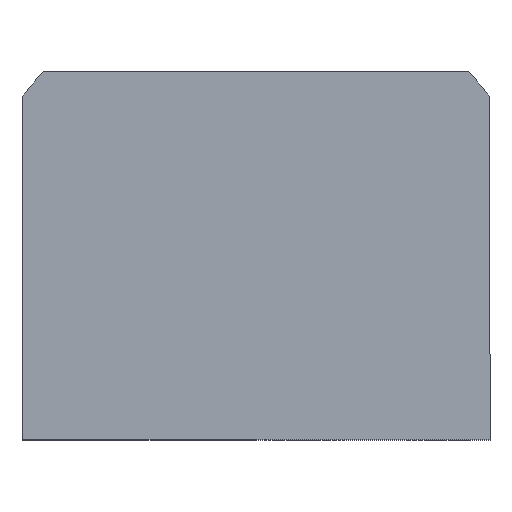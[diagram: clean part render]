
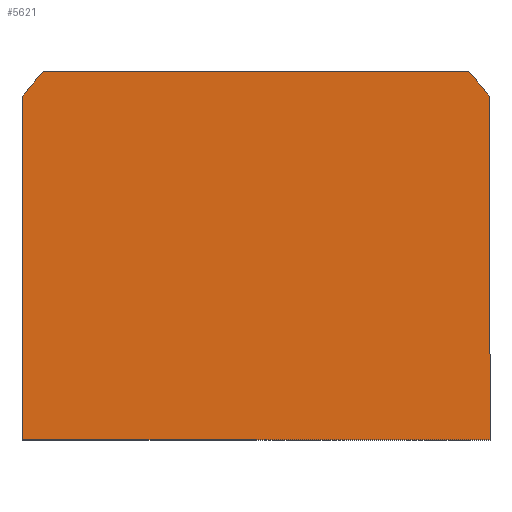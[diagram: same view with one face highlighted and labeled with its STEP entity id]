
A CAD part, top view. The second image highlights one B-rep face of the part: STEP entity #5621.
In plain terms, the highlighted planar face has unit normal (0, 0, 1).
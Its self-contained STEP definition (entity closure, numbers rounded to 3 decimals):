
#132 = LINE ( 'NONE', #14413, #4149 ) ;
#505 = CARTESIAN_POINT ( 'NONE',  ( 0., 0., 32.5 ) ) ;
#624 = LINE ( 'NONE', #7119, #3437 ) ;
#711 = FACE_OUTER_BOUND ( 'NONE', #4878, .T. ) ;
#951 = VECTOR ( 'NONE', #11897, 1000. ) ;
#1436 = CARTESIAN_POINT ( 'NONE',  ( -42.688, 40., 32.5 ) ) ;
#1727 = DIRECTION ( 'NONE',  ( 0., 1., 0. ) ) ;
#1761 = DIRECTION ( 'NONE',  ( 0., 0., 1. ) ) ;
#2758 = DIRECTION ( 'NONE',  ( 0., 0., 1. ) ) ;
#3423 = ORIENTED_EDGE ( 'NONE', *, *, #5774, .T. ) ;
#3437 = VECTOR ( 'NONE', #13748, 1000. ) ;
#3773 = VERTEX_POINT ( 'NONE', #9209 ) ;
#3889 = DIRECTION ( 'NONE',  ( 1., 0., 0. ) ) ;
#4149 = VECTOR ( 'NONE', #10146, 1000. ) ;
#4878 = EDGE_LOOP ( 'NONE', ( #5586, #3423, #8248, #12449, #8776, #8505 ) ) ;
#5028 = VERTEX_POINT ( 'NONE', #13851 ) ;
#5409 = CARTESIAN_POINT ( 'NONE',  ( 42.688, 40., 32.5 ) ) ;
#5586 = ORIENTED_EDGE ( 'NONE', *, *, #10168, .T. ) ;
#5621 = ADVANCED_FACE ( 'NONE', ( #711 ), #12798, .T. ) ;
#5774 = EDGE_CURVE ( 'NONE', #3773, #5975, #14335, .T. ) ;
#5975 = VERTEX_POINT ( 'NONE', #9869 ) ;
#6589 = CIRCLE ( 'NONE', #13340, 58.5 ) ;
#7109 = LINE ( 'NONE', #7442, #951 ) ;
#7119 = CARTESIAN_POINT ( 'NONE',  ( -42.688, 40., 32.5 ) ) ;
#7413 = DIRECTION ( 'NONE',  ( 1., 0., 0. ) ) ;
#7442 = CARTESIAN_POINT ( 'NONE',  ( -47., -34., 32.5 ) ) ;
#7693 = DIRECTION ( 'NONE',  ( 0., 0., 1. ) ) ;
#8248 = ORIENTED_EDGE ( 'NONE', *, *, #11884, .T. ) ;
#8505 = ORIENTED_EDGE ( 'NONE', *, *, #12717, .T. ) ;
#8566 = CARTESIAN_POINT ( 'NONE',  ( -47., 34.832, 32.5 ) ) ;
#8776 = ORIENTED_EDGE ( 'NONE', *, *, #9633, .T. ) ;
#9144 = VERTEX_POINT ( 'NONE', #1436 ) ;
#9209 = CARTESIAN_POINT ( 'NONE',  ( 47., -34., 32.5 ) ) ;
#9425 = CIRCLE ( 'NONE', #9892, 58.5 ) ;
#9513 = CARTESIAN_POINT ( 'NONE',  ( 0., 0., 32.5 ) ) ;
#9633 = EDGE_CURVE ( 'NONE', #9144, #10543, #9425, .T. ) ;
#9818 = VECTOR ( 'NONE', #1727, 1000. ) ;
#9869 = CARTESIAN_POINT ( 'NONE',  ( 47., 34.832, 32.5 ) ) ;
#9892 = AXIS2_PLACEMENT_3D ( 'NONE', #9939, #7693, #10085 ) ;
#9939 = CARTESIAN_POINT ( 'NONE',  ( 0., 0., 32.5 ) ) ;
#10085 = DIRECTION ( 'NONE',  ( 1., 0., 0. ) ) ;
#10146 = DIRECTION ( 'NONE',  ( 1., 0., 0. ) ) ;
#10168 = EDGE_CURVE ( 'NONE', #5028, #3773, #132, .T. ) ;
#10543 = VERTEX_POINT ( 'NONE', #8566 ) ;
#11210 = VERTEX_POINT ( 'NONE', #5409 ) ;
#11446 = EDGE_CURVE ( 'NONE', #11210, #9144, #624, .T. ) ;
#11776 = CARTESIAN_POINT ( 'NONE',  ( 47., 34.832, 32.5 ) ) ;
#11884 = EDGE_CURVE ( 'NONE', #5975, #11210, #6589, .T. ) ;
#11897 = DIRECTION ( 'NONE',  ( 0., -1., 0. ) ) ;
#12449 = ORIENTED_EDGE ( 'NONE', *, *, #11446, .T. ) ;
#12717 = EDGE_CURVE ( 'NONE', #10543, #5028, #7109, .T. ) ;
#12798 = PLANE ( 'NONE',  #12861 ) ;
#12861 = AXIS2_PLACEMENT_3D ( 'NONE', #505, #2758, #3889 ) ;
#13340 = AXIS2_PLACEMENT_3D ( 'NONE', #9513, #1761, #7413 ) ;
#13748 = DIRECTION ( 'NONE',  ( -1., 0., 0. ) ) ;
#13851 = CARTESIAN_POINT ( 'NONE',  ( -47., -34., 32.5 ) ) ;
#14335 = LINE ( 'NONE', #11776, #9818 ) ;
#14413 = CARTESIAN_POINT ( 'NONE',  ( 47., -34., 32.5 ) ) ;
